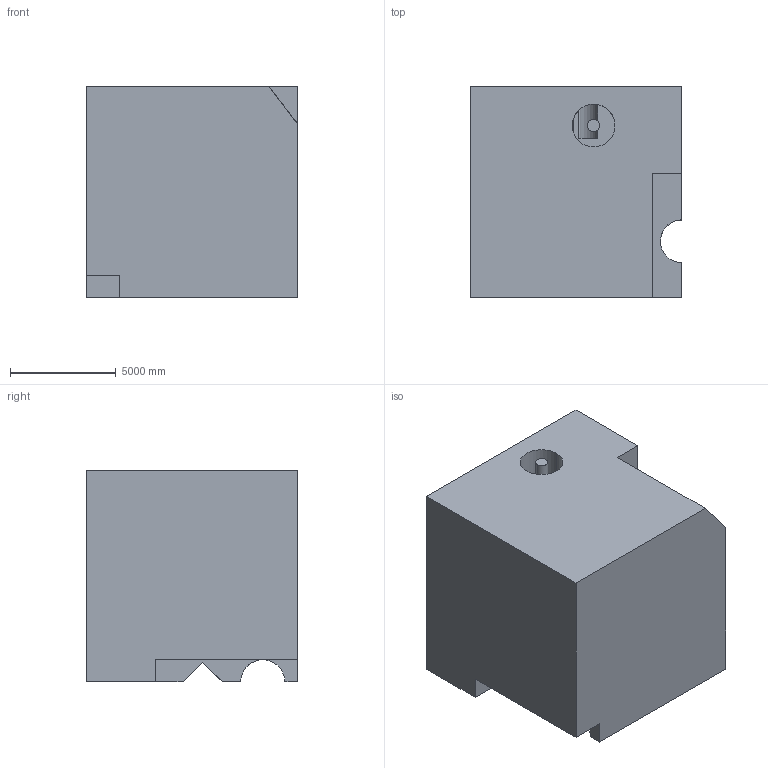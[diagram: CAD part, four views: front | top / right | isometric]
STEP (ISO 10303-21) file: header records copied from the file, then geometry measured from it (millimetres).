
FILE_DESCRIPTION (( 'STEP AP203' ), '1' );
FILE_NAME ('1744.STEP', '2022-08-19T12:18:53', ( 'user' ), ( '' ), 'SwSTEP 2.0', 'SolidWorks 2021', '' );
FILE_SCHEMA (( 'CONFIG_CONTROL_DESIGN' ));
Length unit declared in the file: centimetre
Products named in the file (1): 1744
Bounding box: 10000 x 10000 x 10000 mm (x, y, z)
Volume: 929398293425.2 mm3; surface area: 653396104.5 mm2
Topology: 1 solids, 1 shells, 40 faces, 110 edges, 73 vertices
Faces by surface type: plane 25, cylinder 15
Entity records: 1755 total; most frequent: CARTESIAN_POINT 662, ORIENTED_EDGE 220, DIRECTION 200, EDGE_CURVE 110, VERTEX_POINT 73, VECTOR 72, LINE 72, AXIS2_PLACEMENT_3D 64
